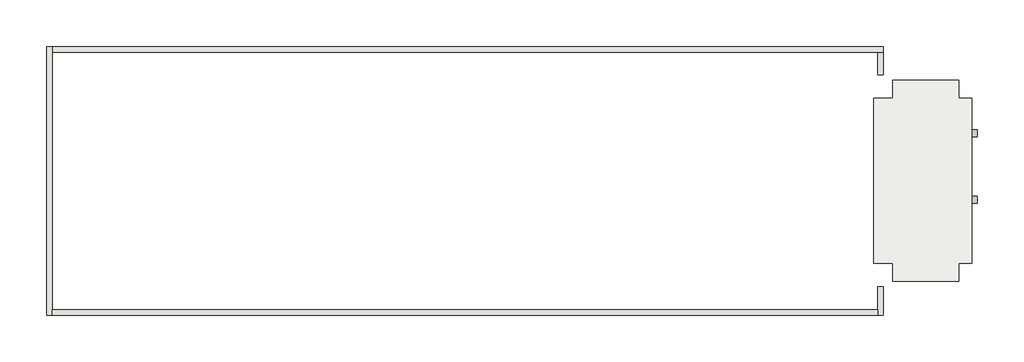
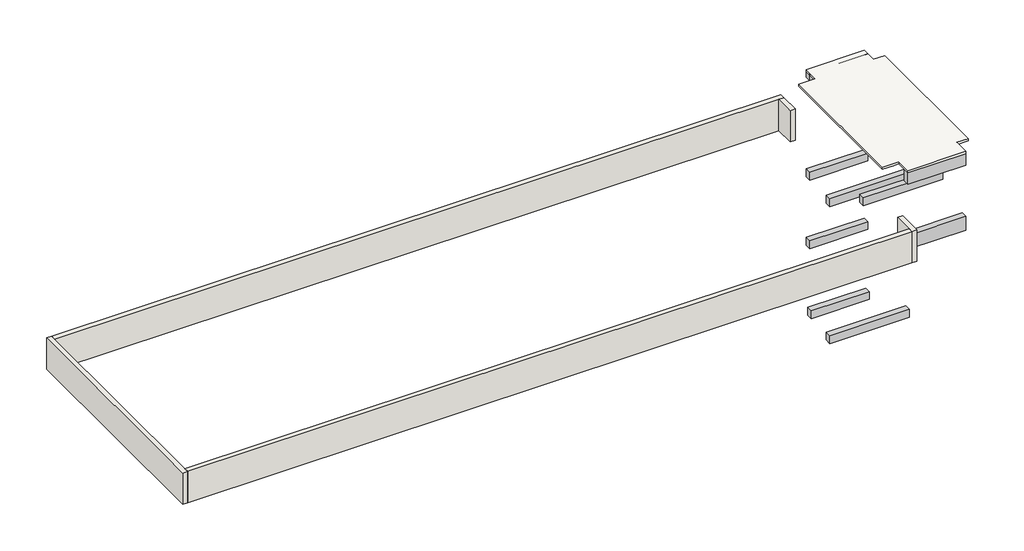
# One storey: 10 beams, 5 walls, 1 roof.
"""IFC4 building model written with IfcOpenShell, lengths in millimetres."""

from ifc_helpers import new_model, si_unit, frame, origin, place, context, project, spatial, polyline, outline, extrude, faceted_brep, transform, mapped, element, save
from components import beam_300x400_5cb47341

model = new_model("IFC4")

# Units and contexts
model_context = context("Model", 3, world=origin())
ifc_project = project(units=[si_unit("LENGTHUNIT", "METRE", prefix="MILLI")], contexts=[model_context])

# Site, building, storey
site = spatial("IfcSite", under=ifc_project)
building = spatial("IfcBuilding", under=site)
storey = spatial("IfcBuildingStorey", under=building, Name="屋顶", Elevation=14200.0)

# Beams
placement = place(None, origin())
element("IfcBeam", 1, ObjectType="混凝土 - 矩形梁 : 300X400", at=placement, inside=storey, context=model_context, shape_type="SweptSolid", body=[
    extrude(outline(polyline([(26422.1385293, 7800.1856454), (26422.1385293, 8100.1856454), (29222.1385293, 8100.1856454), (29222.1385293, 7800.1856454), (26422.1385293, 7800.1856454)])), frame((0.0, 0.0, 1350.0), z_axis=(0.0, 0.0, 1.0), x_axis=(1.0, 0.0, 0.0)), (0.0, 0.0, 1.0), 400.0),
])
element("IfcBeam", 2, ObjectType="混凝土 - 矩形梁 : 300X400", at=placement, inside=storey, context=model_context, shape_type="SweptSolid", body=[
    extrude(outline(polyline([(30022.1385293, 6140.1856454), (30022.1385293, 5840.1856454), (26182.1385293, 5840.1856454), (26182.1385293, 6140.1856454), (30022.1385293, 6140.1856454)])), frame((0.0, 0.0, 1350.0), z_axis=(0.0, 0.0, 1.0), x_axis=(1.0, 0.0, 0.0)), (0.0, 0.0, 1.0), 400.0),
])
element("IfcBeam", 3, ObjectType="混凝土 - 矩形梁 : 300X400", at=placement, inside=storey, context=model_context, shape_type="SweptSolid", body=[
    extrude(outline(polyline([(30022.1385293, 6140.1856454), (30022.1385293, 5840.1856454), (26182.1385293, 5840.1856454), (26182.1385293, 6140.1856454), (30022.1385293, 6140.1856454)])), frame((0.0, 0.0, 4850.0), z_axis=(0.0, 0.0, 1.0), x_axis=(1.0, 0.0, 0.0)), (0.0, 0.0, 1.0), 400.0),
])
element("IfcBeam", 4, ObjectType="混凝土 - 矩形梁 : 300X400", at=placement, inside=storey, context=model_context, shape_type="SweptSolid", body=[
    extrude(outline(polyline([(26422.1385293, 7930.1856454), (26422.1385293, 8230.1856454), (29222.1385293, 8230.1856454), (29222.1385293, 7930.1856454), (26422.1385293, 7930.1856454)])), frame((0.0, 0.0, 8350.0), z_axis=(0.0, 0.0, 1.0), x_axis=(1.0, 0.0, 0.0)), (0.0, 0.0, 1.0), 400.0),
])
element("IfcBeam", 5, ObjectType="混凝土 - 矩形梁 : 300X400", at=placement, inside=storey, context=model_context, shape_type="SweptSolid", body=[
    extrude(outline(polyline([(30022.1385293, 6140.1856454), (30022.1385293, 5840.1856454), (26182.1385293, 5840.1856454), (26182.1385293, 6140.1856454), (30022.1385293, 6140.1856454)])), frame((0.0, 0.0, 8350.0), z_axis=(0.0, 0.0, 1.0), x_axis=(1.0, 0.0, 0.0)), (0.0, 0.0, 1.0), 400.0),
])
element("IfcBeam", 6, ObjectType="混凝土 - 矩形梁 : 300X400", at=placement, inside=storey, context=model_context, shape_type="SweptSolid", body=[
    extrude(outline(polyline([(26422.1385293, 7930.1856454), (26422.1385293, 8230.1856454), (29222.1385293, 8230.1856454), (29222.1385293, 7930.1856454), (26422.1385293, 7930.1856454)])), frame((0.0, 0.0, 4850.0), z_axis=(0.0, 0.0, 1.0), x_axis=(1.0, 0.0, 0.0)), (0.0, 0.0, 1.0), 400.0),
])
element("IfcBeam", 7, ObjectType="混凝土 - 矩形梁 : 300X400", at=placement, inside=storey, context=model_context, shape_type="SweptSolid", body=[
    extrude(outline(polyline([(26422.1385293, 7930.1856454), (26422.1385293, 8230.1856454), (29222.1385293, 8230.1856454), (29222.1385293, 7930.1856454), (26422.1385293, 7930.1856454)])), frame((0.0, 0.0, 13420.0), z_axis=(0.0, 0.0, 1.0), x_axis=(1.0, 0.0, 0.0)), (0.0, 0.0, 1.0), 400.0),
])
beam_300x400_shape = beam_300x400_5cb47341(model_context)
element("IfcBeam", 8, ObjectType="混凝土 - 矩形梁 : 300X400", at=placement, inside=storey, context=model_context, shape_type="MappedRepresentation", body=[
    mapped(beam_300x400_shape, transform((28102.1385293, 3170.1856454, 10300.8947076), x_axis=(1.0, 0.0, 0.0), y_axis=(0.0, 1.0, 0.0), z_axis=(0.0, 0.0, 1.0))),
])
element("IfcBeam", 9, ObjectType="混凝土 - 矩形梁 : 300X700", at=placement, inside=storey, context=model_context, shape_type="SweptSolid", body=[
    extrude(outline(polyline([(26422.1385293, -289.8143546), (26422.1385293, 10.1856454), (29222.1385293, 10.1856454), (29222.1385293, -289.8143546), (26422.1385293, -289.8143546)])), frame((0.0, 0.0, 9800.8947076), z_axis=(0.0, 0.0, 1.0), x_axis=(1.0, 0.0, 0.0)), (0.0, 0.0, 1.0), 700.0),
])
element("IfcBeam", 10, ObjectType="混凝土 - 矩形梁 : 300X700", at=placement, inside=storey, context=model_context, shape_type="SweptSolid", body=[
    extrude(outline(polyline([(26422.1385293, -289.8143546), (26422.1385293, 10.1856454), (29222.1385293, 10.1856454), (29222.1385293, -289.8143546), (26422.1385293, -289.8143546)])), frame((0.0, 0.0, 13120.0), z_axis=(0.0, 0.0, 1.0), x_axis=(1.0, 0.0, 0.0)), (0.0, 0.0, 1.0), 700.0),
])

# Roof
element("IfcRoof", 11, ObjectType="屋顶2", at=placement, inside=storey, context=model_context, shape_type="Brep", body=[
    faceted_brep([(26422.1385293, 8230.1856454, 13700.0), (29222.1385293, 8230.1856454, 13700.0), (29222.1385293, 7470.1856454, 13700.0), (29782.1385293, 7470.1856454, 13700.0), (29782.1385293, 470.1856454, 13700.0), (29222.1385293, 470.1856454, 13700.0), (29222.1385293, -289.8143546, 13700.0), (26422.1385293, -289.8143546, 13700.0), (26422.1385293, 470.1856454, 13700.0), (26182.1385293, 470.1856454, 13700.0), (25622.1385293, 470.1856454, 13700.0), (25622.1385293, 7470.1856454, 13700.0), (26182.1385293, 7470.1856454, 13700.0), (26422.1385293, 7470.1856454, 13700.0), (29222.1385293, 8230.1856454, 13820.0), (26422.1385293, 8230.1856454, 13820.0), (26422.1385293, 7470.1856454, 13820.0), (25622.1385293, 7470.1856454, 13820.0), (25622.1385293, 470.1856454, 13820.0), (26422.1385293, 470.1856454, 13820.0), (26422.1385293, -289.8143546, 13820.0), (29222.1385293, -289.8143546, 13820.0), (29222.1385293, 470.1856454, 13820.0), (29782.1385293, 470.1856454, 13820.0), (29782.1385293, 7470.1856454, 13820.0), (29222.1385293, 7470.1856454, 13820.0)], [[[0, 1, 2, 3, 4, 5, 6, 7, 8, 9, 10, 11, 12, 13]], [[14, 15, 16, 17, 18, 19, 20, 21, 22, 23, 24, 25]], [[15, 14, 1, 0]], [[18, 17, 11, 10]], [[21, 20, 7, 6]], [[24, 23, 4, 3]], [[16, 15, 0, 13]], [[17, 16, 13, 12, 11]], [[14, 25, 2, 1]], [[25, 24, 3, 2]], [[23, 22, 5, 4]], [[22, 21, 6, 5]], [[20, 19, 8, 7]], [[19, 18, 10, 9, 8]]]),
])

# Walls
element("IfcWall", 12, ObjectType="240mm厚墙", at=placement, inside=storey, context=model_context, shape_type="Brep", body=[
    faceted_brep([(-9237.8614707, -1729.8143546, 10200.0), (-9237.8614707, -1489.8143546, 10200.0), (-9237.8614707, 9430.1856454, 10200.0), (-9237.8614707, 9670.1856454, 10200.0), (-9237.8614707, 9670.1856454, 11800.0), (-9237.8614707, 9430.1856454, 11800.0), (-9237.8614707, -1489.8143546, 11800.0), (-9237.8614707, -1729.8143546, 11800.0), (-9477.8614707, -1729.8143546, 10200.0), (-9477.8614707, -1729.8143546, 11800.0), (-9477.8614707, 9670.1856454, 11800.0), (-9477.8614707, 9670.1856454, 10200.0)], [[[0, 1, 2, 3, 4, 5, 6, 7]], [[8, 9, 10, 11]], [[3, 2, 1, 0, 8, 11]], [[7, 6, 5, 4, 10, 9]], [[4, 3, 11, 10]], [[0, 7, 9, 8]]]),
])
element("IfcWall", 13, ObjectType="240mm厚墙", at=placement, inside=storey, context=model_context, shape_type="Brep", body=[
    faceted_brep([(-9237.8614707, 9430.1856454, 10200.0), (25782.1385293, 9430.1856454, 10200.0), (26022.1385293, 9430.1856454, 10200.0), (26022.1385293, 9430.1856454, 11800.0), (25782.1385293, 9430.1856454, 11800.0), (-9237.8614707, 9430.1856454, 11800.0), (-9237.8614707, 9670.1856454, 10200.0), (-9237.8614707, 9670.1856454, 11800.0), (26022.1385293, 9670.1856454, 11800.0), (26022.1385293, 9670.1856454, 10200.0)], [[[0, 1, 2, 3, 4, 5]], [[6, 7, 8, 9]], [[2, 1, 0, 6, 9]], [[5, 4, 3, 8, 7]], [[0, 5, 7, 6]], [[3, 2, 9, 8]]]),
])
element("IfcWall", 14, ObjectType="240mm厚墙", at=placement, inside=storey, context=model_context, shape_type="SweptSolid", body=[
    extrude(outline(polyline([(25782.1385293, 8470.1856454), (25782.1385293, 9430.1856454), (26022.1385293, 9430.1856454), (26022.1385293, 8470.1856454), (25782.1385293, 8470.1856454)])), frame((0.0, 0.0, 10200.0), z_axis=(0.0, 0.0, 1.0), x_axis=(1.0, 0.0, 0.0)), (0.0, 0.0, 1.0), 1600.0),
])
element("IfcWall", 15, ObjectType="240mm厚墙", at=placement, inside=storey, context=model_context, shape_type="Brep", body=[
    faceted_brep([(25782.1385293, -529.8143546, 10200.0), (25782.1385293, -1489.8143546, 10200.0), (25782.1385293, -1729.8143546, 10200.0), (25782.1385293, -1729.8143546, 11800.0), (25782.1385293, -1489.8143546, 11800.0), (25782.1385293, -529.8143546, 11800.0), (26022.1385293, -529.8143546, 10200.0), (26022.1385293, -529.8143546, 11800.0), (26022.1385293, -1729.8143546, 11800.0), (26022.1385293, -1729.8143546, 10200.0)], [[[0, 1, 2, 3, 4, 5]], [[6, 7, 8, 9]], [[2, 1, 0, 6, 9]], [[5, 4, 3, 8, 7]], [[0, 5, 7, 6]], [[3, 2, 9, 8]]]),
])
element("IfcWall", 16, ObjectType="240mm厚墙", at=placement, inside=storey, context=model_context, shape_type="SweptSolid", body=[
    extrude(outline(polyline([(-9237.8614707, -1489.8143546), (25782.1385293, -1489.8143546), (25782.1385293, -1729.8143546), (-9237.8614707, -1729.8143546), (-9237.8614707, -1489.8143546)])), frame((0.0, 0.0, 10200.0), z_axis=(0.0, 0.0, 1.0), x_axis=(1.0, 0.0, 0.0)), (0.0, 0.0, 1.0), 1600.0),
])

save(model, "model.ifc")
